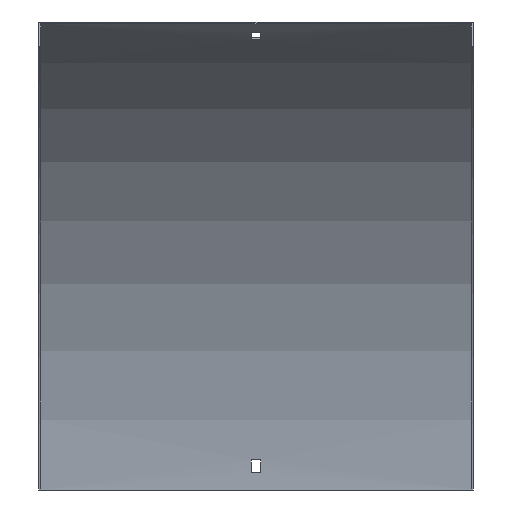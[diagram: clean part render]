
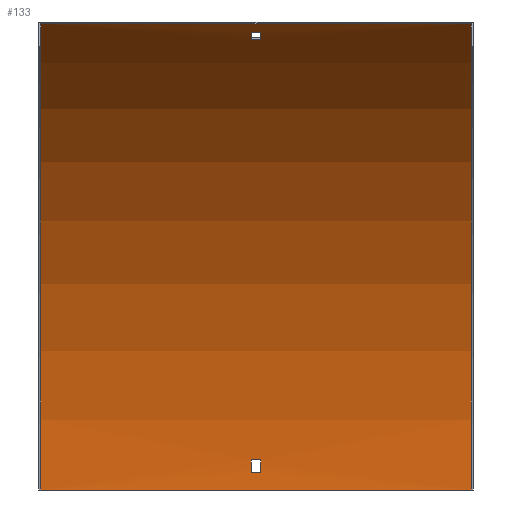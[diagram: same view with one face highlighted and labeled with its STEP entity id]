
A CAD part, front view. The second image highlights one B-rep face of the part: STEP entity #133.
In plain terms, the highlighted cylindrical face has radius 375 mm (diameter 750 mm), a partial arc.
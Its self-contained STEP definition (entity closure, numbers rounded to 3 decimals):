
#10 = VERTEX_POINT ( 'NONE', #72 ) ;
#14 = CARTESIAN_POINT ( 'NONE',  ( 151.5, -2.088, 21. ) ) ;
#23 = CIRCLE ( 'NONE', #96, 375. ) ;
#24 = AXIS2_PLACEMENT_3D ( 'NONE', #215, #461, #404 ) ;
#25 = ORIENTED_EDGE ( 'NONE', *, *, #302, .T. ) ;
#30 = DIRECTION ( 'NONE',  ( 0., 0., 1. ) ) ;
#34 = CYLINDRICAL_SURFACE ( 'NONE', #280, 375. ) ;
#38 = DIRECTION ( 'NONE',  ( 1., 0., 0. ) ) ;
#42 = CARTESIAN_POINT ( 'NONE',  ( 151.5, -171.108, 313.75 ) ) ;
#49 = ORIENTED_EDGE ( 'NONE', *, *, #239, .T. ) ;
#58 = CIRCLE ( 'NONE', #441, 375. ) ;
#61 = ORIENTED_EDGE ( 'NONE', *, *, #256, .F. ) ;
#64 = VERTEX_POINT ( 'NONE', #344 ) ;
#72 = CARTESIAN_POINT ( 'NONE',  ( -150., -1.5, 0. ) ) ;
#75 = LINE ( 'NONE', #116, #572 ) ;
#82 = ORIENTED_EDGE ( 'NONE', *, *, #316, .F. ) ;
#87 = CARTESIAN_POINT ( 'NONE',  ( 3.25, -171.108, 313.75 ) ) ;
#88 = CARTESIAN_POINT ( 'NONE',  ( 150., -376.5, 0. ) ) ;
#95 = EDGE_CURVE ( 'NONE', #519, #249, #286, .T. ) ;
#96 = AXIS2_PLACEMENT_3D ( 'NONE', #455, #583, #30 ) ;
#114 = DIRECTION ( 'NONE',  ( 1., 0., 0. ) ) ;
#116 = CARTESIAN_POINT ( 'NONE',  ( 151.5, -1.692, 12. ) ) ;
#122 = DIRECTION ( 'NONE',  ( 0., 0., -1. ) ) ;
#127 = EDGE_CURVE ( 'NONE', #192, #522, #75, .T. ) ;
#128 = CIRCLE ( 'NONE', #545, 375. ) ;
#133 = ADVANCED_FACE ( 'NONE', ( #450, #309, #319 ), #34, .F. ) ;
#136 = CIRCLE ( 'NONE', #285, 375. ) ;
#141 = EDGE_LOOP ( 'NONE', ( #182, #82, #25, #365 ) ) ;
#148 = LINE ( 'NONE', #42, #168 ) ;
#156 = LINE ( 'NONE', #348, #315 ) ;
#165 = CARTESIAN_POINT ( 'NONE',  ( 150., -1.5, 0. ) ) ;
#168 = VECTOR ( 'NONE', #446, 1000. ) ;
#182 = ORIENTED_EDGE ( 'NONE', *, *, #211, .F. ) ;
#186 = ORIENTED_EDGE ( 'NONE', *, *, #95, .T. ) ;
#192 = VERTEX_POINT ( 'NONE', #489 ) ;
#197 = DIRECTION ( 'NONE',  ( 1., 0., 0. ) ) ;
#211 = EDGE_CURVE ( 'NONE', #10, #546, #136, .T. ) ;
#213 = CARTESIAN_POINT ( 'NONE',  ( 150., -189., 324.76 ) ) ;
#215 = CARTESIAN_POINT ( 'NONE',  ( -3.25, -376.5, 0. ) ) ;
#221 = CIRCLE ( 'NONE', #393, 375. ) ;
#226 = DIRECTION ( 'NONE',  ( -1., 0., 0. ) ) ;
#230 = DIRECTION ( 'NONE',  ( 0., 0., 1. ) ) ;
#233 = CARTESIAN_POINT ( 'NONE',  ( 3.25, -1.692, 12. ) ) ;
#234 = DIRECTION ( 'NONE',  ( -1., 0., 0. ) ) ;
#239 = EDGE_CURVE ( 'NONE', #525, #519, #148, .T. ) ;
#243 = ORIENTED_EDGE ( 'NONE', *, *, #127, .F. ) ;
#248 = CARTESIAN_POINT ( 'NONE',  ( -3.25, -2.088, 21. ) ) ;
#249 = VERTEX_POINT ( 'NONE', #543 ) ;
#256 = EDGE_CURVE ( 'NONE', #394, #192, #221, .T. ) ;
#262 = EDGE_CURVE ( 'NONE', #503, #525, #23, .T. ) ;
#277 = EDGE_CURVE ( 'NONE', #522, #401, #58, .T. ) ;
#280 = AXIS2_PLACEMENT_3D ( 'NONE', #306, #591, #230 ) ;
#281 = EDGE_LOOP ( 'NONE', ( #49, #186, #389, #384 ) ) ;
#285 = AXIS2_PLACEMENT_3D ( 'NONE', #432, #197, #341 ) ;
#286 = CIRCLE ( 'NONE', #24, 375. ) ;
#302 = EDGE_CURVE ( 'NONE', #64, #528, #128, .T. ) ;
#305 = DIRECTION ( 'NONE',  ( 0., 0., 1. ) ) ;
#306 = CARTESIAN_POINT ( 'NONE',  ( 151.5, -376.5, 0. ) ) ;
#309 = FACE_OUTER_BOUND ( 'NONE', #141, .T. ) ;
#311 = CARTESIAN_POINT ( 'NONE',  ( -150., -189., 324.76 ) ) ;
#315 = VECTOR ( 'NONE', #479, 1000. ) ;
#316 = EDGE_CURVE ( 'NONE', #64, #10, #599, .T. ) ;
#319 = FACE_BOUND ( 'NONE', #281, .T. ) ;
#325 = VECTOR ( 'NONE', #234, 1000. ) ;
#341 = DIRECTION ( 'NONE',  ( 0., 0., -1. ) ) ;
#344 = CARTESIAN_POINT ( 'NONE',  ( 150., -1.5, 0. ) ) ;
#348 = CARTESIAN_POINT ( 'NONE',  ( 151.5, -178.704, 318.593 ) ) ;
#351 = DIRECTION ( 'NONE',  ( 0., 0., -1. ) ) ;
#352 = VECTOR ( 'NONE', #568, 1000. ) ;
#357 = DIRECTION ( 'NONE',  ( 1., 0., 0. ) ) ;
#365 = ORIENTED_EDGE ( 'NONE', *, *, #367, .T. ) ;
#367 = EDGE_CURVE ( 'NONE', #528, #546, #513, .T. ) ;
#371 = CARTESIAN_POINT ( 'NONE',  ( 150., -189., 324.76 ) ) ;
#384 = ORIENTED_EDGE ( 'NONE', *, *, #262, .T. ) ;
#389 = ORIENTED_EDGE ( 'NONE', *, *, #391, .T. ) ;
#391 = EDGE_CURVE ( 'NONE', #249, #503, #156, .T. ) ;
#393 = AXIS2_PLACEMENT_3D ( 'NONE', #506, #510, #305 ) ;
#394 = VERTEX_POINT ( 'NONE', #248 ) ;
#401 = VERTEX_POINT ( 'NONE', #523 ) ;
#404 = DIRECTION ( 'NONE',  ( 0., 1., 0. ) ) ;
#417 = CARTESIAN_POINT ( 'NONE',  ( 3.25, -376.5, 0. ) ) ;
#427 = EDGE_CURVE ( 'NONE', #401, #394, #527, .T. ) ;
#432 = CARTESIAN_POINT ( 'NONE',  ( -150., -376.5, 0. ) ) ;
#441 = AXIS2_PLACEMENT_3D ( 'NONE', #417, #38, #122 ) ;
#446 = DIRECTION ( 'NONE',  ( -1., 0., 0. ) ) ;
#450 = FACE_BOUND ( 'NONE', #469, .T. ) ;
#455 = CARTESIAN_POINT ( 'NONE',  ( 3.25, -376.5, 0. ) ) ;
#461 = DIRECTION ( 'NONE',  ( 1., 0., 0. ) ) ;
#469 = EDGE_LOOP ( 'NONE', ( #61, #567, #487, #243 ) ) ;
#479 = DIRECTION ( 'NONE',  ( 1., 0., 0. ) ) ;
#487 = ORIENTED_EDGE ( 'NONE', *, *, #277, .F. ) ;
#489 = CARTESIAN_POINT ( 'NONE',  ( -3.25, -1.692, 12. ) ) ;
#493 = CARTESIAN_POINT ( 'NONE',  ( 3.25, -178.704, 318.593 ) ) ;
#503 = VERTEX_POINT ( 'NONE', #493 ) ;
#506 = CARTESIAN_POINT ( 'NONE',  ( -3.25, -376.5, 0. ) ) ;
#510 = DIRECTION ( 'NONE',  ( -1., 0., 0. ) ) ;
#513 = LINE ( 'NONE', #371, #325 ) ;
#515 = VECTOR ( 'NONE', #226, 1000. ) ;
#519 = VERTEX_POINT ( 'NONE', #547 ) ;
#522 = VERTEX_POINT ( 'NONE', #233 ) ;
#523 = CARTESIAN_POINT ( 'NONE',  ( 3.25, -2.088, 21. ) ) ;
#525 = VERTEX_POINT ( 'NONE', #87 ) ;
#527 = LINE ( 'NONE', #14, #352 ) ;
#528 = VERTEX_POINT ( 'NONE', #213 ) ;
#543 = CARTESIAN_POINT ( 'NONE',  ( -3.25, -178.704, 318.593 ) ) ;
#545 = AXIS2_PLACEMENT_3D ( 'NONE', #88, #114, #351 ) ;
#546 = VERTEX_POINT ( 'NONE', #311 ) ;
#547 = CARTESIAN_POINT ( 'NONE',  ( -3.25, -171.108, 313.75 ) ) ;
#567 = ORIENTED_EDGE ( 'NONE', *, *, #427, .F. ) ;
#568 = DIRECTION ( 'NONE',  ( -1., 0., 0. ) ) ;
#572 = VECTOR ( 'NONE', #357, 1000. ) ;
#583 = DIRECTION ( 'NONE',  ( -1., 0., 0. ) ) ;
#591 = DIRECTION ( 'NONE',  ( -1., 0., 0. ) ) ;
#599 = LINE ( 'NONE', #165, #515 ) ;
